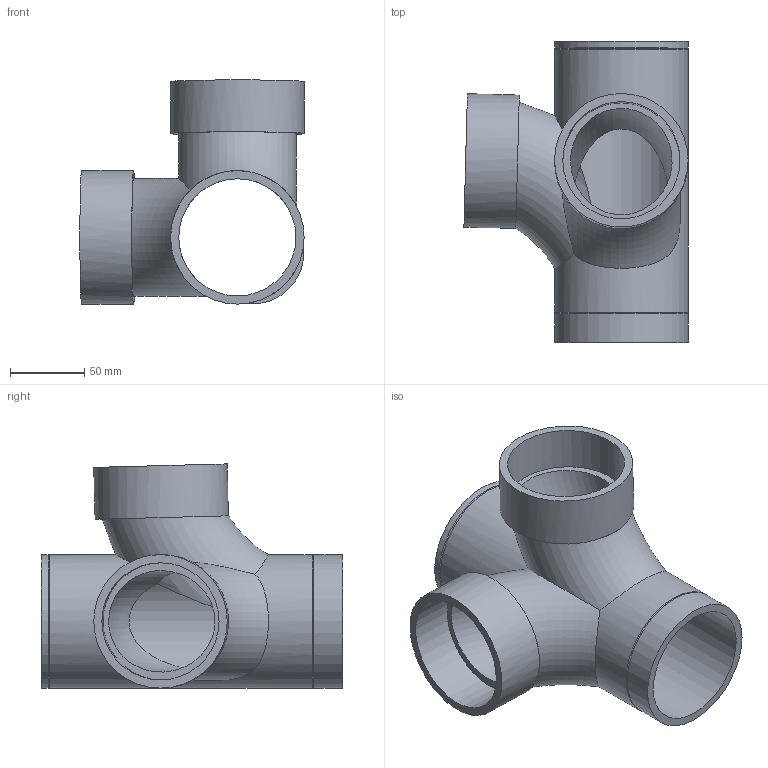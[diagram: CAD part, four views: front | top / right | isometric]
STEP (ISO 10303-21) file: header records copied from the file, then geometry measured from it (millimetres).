
FILE_DESCRIPTION(/* description */ (''),/* implementation_level */ '2;1');
FILE_NAME(/* name */ 'Z:\Geberit\Export\NewStep\DoppelAbzweigMax_Ipart\stp\308083.stp',/* time_stamp */ '2014-04-03T18:07:43+02:00',/* author */ ('ML'),/* organization */ (''),/* preprocessor_version */ 'ST-DEVELOPER v15.2',/* originating_system */ 'Autodesk Inventor 2014',/* authorisation */ '');
FILE_SCHEMA (('AUTOMOTIVE_DESIGN { 1 0 10303 214 3 1 1 }'));
Length unit declared in the file: millimetre
Products named in the file (1): 308083
Bounding box: 151.14 x 203 x 151.14 mm (x, y, z)
Volume: 465017.5 mm3; surface area: 177019.4 mm2
Topology: 1 solids, 1 shells, 55 faces, 112 edges, 72 vertices
Faces by surface type: plane 28, cylinder 18, torus 5, cone 4
Full cylindrical faces by diameter (mm): 79 x3, 90 x5
Entity records: 1864 total; most frequent: CARTESIAN_POINT 680, DIRECTION 248, ORIENTED_EDGE 180, AXIS2_PLACEMENT_3D 114, EDGE_LOOP 92, EDGE_CURVE 90, VERTEX_POINT 68, CIRCLE 58
